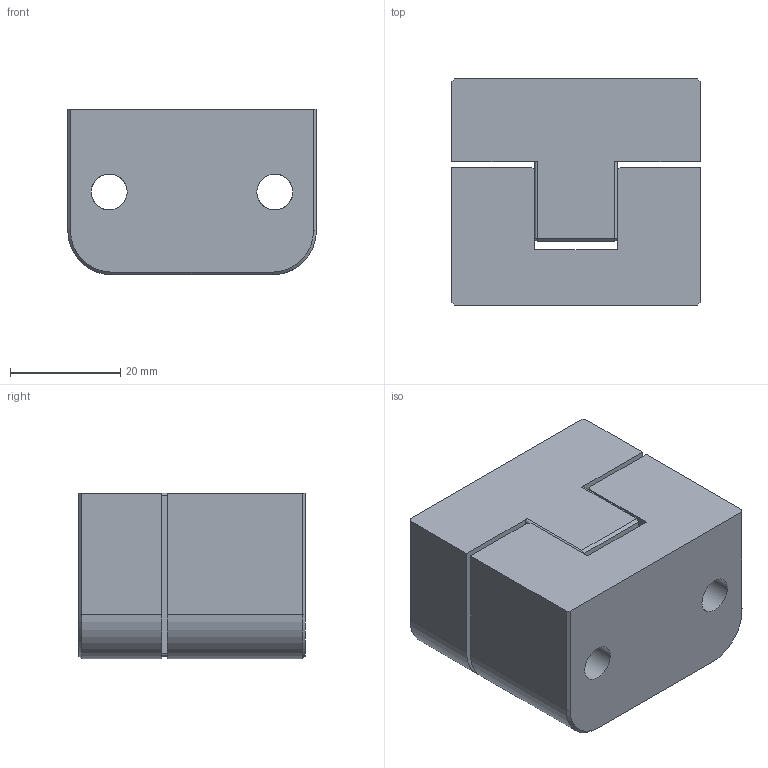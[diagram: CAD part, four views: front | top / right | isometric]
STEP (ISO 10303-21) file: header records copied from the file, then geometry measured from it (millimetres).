
FILE_DESCRIPTION(('CATIA V5 STEP Exchange'),'2;1');
FILE_NAME('C:\Users\Raffaele\Desktop\3D BOLEX\3D FILES CF BOLEX\17-CENTERER REF 505\CL505045.stp','2019-06-20T13:11:38+00:00',('none'),('none'),'CATIA Version 5 Release 20 GA (IN-10)','CATIA V5 STEP AP203','none');
FILE_SCHEMA(('CONFIG_CONTROL_DESIGN'));
Length unit declared in the file: millimetre
Products named in the file (1): CL505045
Assembly tree (2 placements, depth 2):
  CL505045
    #58
    #3747
Bounding box: 45 x 41 x 30 mm (x, y, z)
Volume: 48252.8 mm3; surface area: 15273.9 mm2
Topology: 14 solids, 14 shells, 152 faces, 308 edges, 196 vertices
Faces by surface type: cylinder 72, plane 72, cone 8
Entity records: 4667 total; most frequent: CARTESIAN_POINT 1520, ORIENTED_EDGE 608, DIRECTION 565, EDGE_CURVE 304, AXIS2_PLACEMENT_3D 253, VERTEX_POINT 196, EDGE_LOOP 176, VECTOR 156
